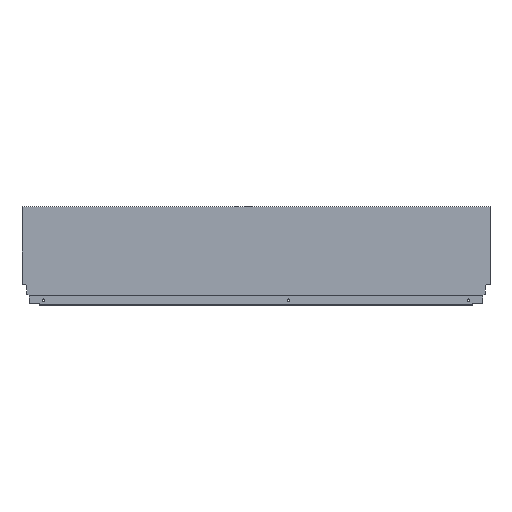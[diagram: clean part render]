
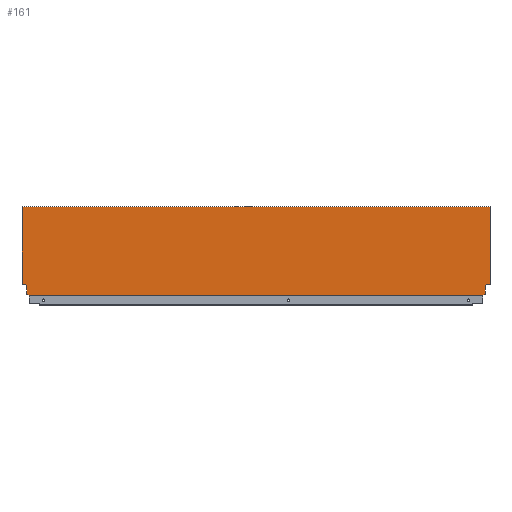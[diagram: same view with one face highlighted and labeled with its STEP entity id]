
A CAD part, top view. The second image highlights one B-rep face of the part: STEP entity #161.
In plain terms, the highlighted planar face has unit normal (0, 0, 1).
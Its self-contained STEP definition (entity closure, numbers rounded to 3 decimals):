
#2 = CARTESIAN_POINT ( 'NONE',  ( -865., 164.7, 7.5 ) ) ;
#6 = DIRECTION ( 'NONE',  ( -1., 0., 0. ) ) ;
#28 = CARTESIAN_POINT ( 'NONE',  ( 0., 21.2, 7.5 ) ) ;
#29 = DIRECTION ( 'NONE',  ( 0., -1., 0. ) ) ;
#32 = DIRECTION ( 'NONE',  ( 1., 0., 0. ) ) ;
#37 = CARTESIAN_POINT ( 'NONE',  ( 0., 0., 7.5 ) ) ;
#40 = DIRECTION ( 'NONE',  ( -0.94, -0.342, 0. ) ) ;
#50 = CARTESIAN_POINT ( 'NONE',  ( -851.996, 0., 7.5 ) ) ;
#59 = CARTESIAN_POINT ( 'NONE',  ( -13.004, 0., 7.5 ) ) ;
#62 = CARTESIAN_POINT ( 'NONE',  ( -856.1, 10.765, 7.5 ) ) ;
#65 = CARTESIAN_POINT ( 'NONE',  ( -851.996, 1.146, 7.5 ) ) ;
#67 = CARTESIAN_POINT ( 'NONE',  ( -13.004, 1.146, 7.5 ) ) ;
#72 = CARTESIAN_POINT ( 'NONE',  ( -8.9, 2.64, 7.5 ) ) ;
#77 = CARTESIAN_POINT ( 'NONE',  ( -865., 164.7, 7.5 ) ) ;
#85 = CARTESIAN_POINT ( 'NONE',  ( -856.1, 2.64, 7.5 ) ) ;
#89 = CARTESIAN_POINT ( 'NONE',  ( -7.06, 21.2, 7.5 ) ) ;
#93 = CARTESIAN_POINT ( 'NONE',  ( -8.9, 10.765, 7.5 ) ) ;
#98 = CARTESIAN_POINT ( 'NONE',  ( 0., 164.7, 7.5 ) ) ;
#102 = CARTESIAN_POINT ( 'NONE',  ( 0., 21.2, 7.5 ) ) ;
#161 = ADVANCED_FACE ( 'NONE', ( #270 ), #1113, .T. ) ;
#169 = VECTOR ( 'NONE', #1173, 1000. ) ;
#170 = LINE ( 'NONE', #1174, #169 ) ;
#171 = LINE ( 'NONE', #1160, #483 ) ;
#172 = VECTOR ( 'NONE', #1175, 1000. ) ;
#174 = LINE ( 'NONE', #1183, #172 ) ;
#176 = VECTOR ( 'NONE', #1177, 1000. ) ;
#177 = LINE ( 'NONE', #1176, #210 ) ;
#178 = LINE ( 'NONE', #1178, #176 ) ;
#181 = LINE ( 'NONE', #1162, #208 ) ;
#199 = VECTOR ( 'NONE', #1169, 1000. ) ;
#200 = LINE ( 'NONE', #1170, #199 ) ;
#202 = LINE ( 'NONE', #1166, #207 ) ;
#203 = VECTOR ( 'NONE', #1167, 1000. ) ;
#204 = LINE ( 'NONE', #1168, #203 ) ;
#205 = VECTOR ( 'NONE', #1163, 1000. ) ;
#206 = LINE ( 'NONE', #1164, #205 ) ;
#207 = VECTOR ( 'NONE', #1165, 1000. ) ;
#208 = VECTOR ( 'NONE', #1159, 1000. ) ;
#209 = LINE ( 'NONE', #28, #522 ) ;
#210 = VECTOR ( 'NONE', #1161, 1000. ) ;
#211 = VECTOR ( 'NONE', #1157, 1000. ) ;
#212 = LINE ( 'NONE', #1158, #211 ) ;
#213 = LINE ( 'NONE', #37, #480 ) ;
#270 = FACE_OUTER_BOUND ( 'NONE', #547, .T. ) ;
#432 = AXIS2_PLACEMENT_3D ( 'NONE', #1110, #1103, #1102 ) ;
#480 = VECTOR ( 'NONE', #29, 1000. ) ;
#482 = VECTOR ( 'NONE', #32, 1000. ) ;
#483 = VECTOR ( 'NONE', #40, 1000. ) ;
#486 = LINE ( 'NONE', #2, #482 ) ;
#522 = VECTOR ( 'NONE', #6, 1000. ) ;
#547 = EDGE_LOOP ( 'NONE', ( #1422, #1426, #1423, #1427, #1428, #1416, #1425, #1418, #1419, #1455, #1456, #1457, #1458, #1459 ) ) ;
#801 = CARTESIAN_POINT ( 'NONE',  ( -865., 21.2, 7.5 ) ) ;
#812 = CARTESIAN_POINT ( 'NONE',  ( -857.94, 21.2, 7.5 ) ) ;
#839 = VERTEX_POINT ( 'NONE', #102 ) ;
#843 = VERTEX_POINT ( 'NONE', #98 ) ;
#848 = VERTEX_POINT ( 'NONE', #93 ) ;
#852 = VERTEX_POINT ( 'NONE', #89 ) ;
#856 = VERTEX_POINT ( 'NONE', #85 ) ;
#864 = VERTEX_POINT ( 'NONE', #77 ) ;
#869 = VERTEX_POINT ( 'NONE', #72 ) ;
#874 = VERTEX_POINT ( 'NONE', #67 ) ;
#876 = VERTEX_POINT ( 'NONE', #65 ) ;
#880 = VERTEX_POINT ( 'NONE', #62 ) ;
#883 = VERTEX_POINT ( 'NONE', #59 ) ;
#896 = VERTEX_POINT ( 'NONE', #50 ) ;
#899 = VERTEX_POINT ( 'NONE', #801 ) ;
#902 = VERTEX_POINT ( 'NONE', #812 ) ;
#1102 = DIRECTION ( 'NONE',  ( 1., 0., 0. ) ) ;
#1103 = DIRECTION ( 'NONE',  ( 0., 0., 1. ) ) ;
#1110 = CARTESIAN_POINT ( 'NONE',  ( -865., 0., 7.5 ) ) ;
#1113 = PLANE ( 'NONE',  #432 ) ;
#1157 = DIRECTION ( 'NONE',  ( -0.174, -0.985, 0. ) ) ;
#1158 = CARTESIAN_POINT ( 'NONE',  ( -7.06, 21.2, 7.5 ) ) ;
#1159 = DIRECTION ( 'NONE',  ( 0., -1., 0. ) ) ;
#1160 = CARTESIAN_POINT ( 'NONE',  ( -8.9, 2.64, 7.5 ) ) ;
#1161 = DIRECTION ( 'NONE',  ( 0., -1., 0. ) ) ;
#1162 = CARTESIAN_POINT ( 'NONE',  ( -13.004, 1.146, 7.5 ) ) ;
#1163 = DIRECTION ( 'NONE',  ( 0., 1., 0. ) ) ;
#1164 = CARTESIAN_POINT ( 'NONE',  ( -856.1, 10.765, 7.5 ) ) ;
#1165 = DIRECTION ( 'NONE',  ( 0., -1., 0. ) ) ;
#1166 = CARTESIAN_POINT ( 'NONE',  ( -865., 0., 7.5 ) ) ;
#1167 = DIRECTION ( 'NONE',  ( -1., 0., 0. ) ) ;
#1168 = CARTESIAN_POINT ( 'NONE',  ( -870., 21.2, 7.5 ) ) ;
#1169 = DIRECTION ( 'NONE',  ( -0.94, 0.342, 0. ) ) ;
#1170 = CARTESIAN_POINT ( 'NONE',  ( -856.1, 2.64, 7.5 ) ) ;
#1173 = DIRECTION ( 'NONE',  ( -0.174, 0.985, 0. ) ) ;
#1174 = CARTESIAN_POINT ( 'NONE',  ( -857.94, 21.2, 7.5 ) ) ;
#1175 = DIRECTION ( 'NONE',  ( 0., 1., 0. ) ) ;
#1176 = CARTESIAN_POINT ( 'NONE',  ( -8.9, 10.765, 7.5 ) ) ;
#1177 = DIRECTION ( 'NONE',  ( 1., 0., 0. ) ) ;
#1178 = CARTESIAN_POINT ( 'NONE',  ( -865., 0., 7.5 ) ) ;
#1183 = CARTESIAN_POINT ( 'NONE',  ( -851.996, 1.146, 7.5 ) ) ;
#1216 = EDGE_CURVE ( 'NONE', #896, #883, #178, .T. ) ;
#1217 = EDGE_CURVE ( 'NONE', #896, #876, #174, .T. ) ;
#1218 = EDGE_CURVE ( 'NONE', #880, #902, #170, .T. ) ;
#1220 = EDGE_CURVE ( 'NONE', #876, #856, #200, .T. ) ;
#1221 = EDGE_CURVE ( 'NONE', #902, #899, #204, .T. ) ;
#1222 = EDGE_CURVE ( 'NONE', #864, #899, #202, .T. ) ;
#1223 = EDGE_CURVE ( 'NONE', #856, #880, #206, .T. ) ;
#1224 = EDGE_CURVE ( 'NONE', #848, #869, #177, .T. ) ;
#1225 = EDGE_CURVE ( 'NONE', #874, #883, #181, .T. ) ;
#1226 = EDGE_CURVE ( 'NONE', #852, #848, #212, .T. ) ;
#1227 = EDGE_CURVE ( 'NONE', #869, #874, #171, .T. ) ;
#1228 = EDGE_CURVE ( 'NONE', #839, #852, #209, .T. ) ;
#1229 = EDGE_CURVE ( 'NONE', #843, #839, #213, .T. ) ;
#1230 = EDGE_CURVE ( 'NONE', #864, #843, #486, .T. ) ;
#1416 = ORIENTED_EDGE ( 'NONE', *, *, #1217, .F. ) ;
#1418 = ORIENTED_EDGE ( 'NONE', *, *, #1225, .F. ) ;
#1419 = ORIENTED_EDGE ( 'NONE', *, *, #1227, .F. ) ;
#1422 = ORIENTED_EDGE ( 'NONE', *, *, #1222, .T. ) ;
#1423 = ORIENTED_EDGE ( 'NONE', *, *, #1218, .F. ) ;
#1425 = ORIENTED_EDGE ( 'NONE', *, *, #1216, .T. ) ;
#1426 = ORIENTED_EDGE ( 'NONE', *, *, #1221, .F. ) ;
#1427 = ORIENTED_EDGE ( 'NONE', *, *, #1223, .F. ) ;
#1428 = ORIENTED_EDGE ( 'NONE', *, *, #1220, .F. ) ;
#1455 = ORIENTED_EDGE ( 'NONE', *, *, #1224, .F. ) ;
#1456 = ORIENTED_EDGE ( 'NONE', *, *, #1226, .F. ) ;
#1457 = ORIENTED_EDGE ( 'NONE', *, *, #1228, .F. ) ;
#1458 = ORIENTED_EDGE ( 'NONE', *, *, #1229, .F. ) ;
#1459 = ORIENTED_EDGE ( 'NONE', *, *, #1230, .F. ) ;
